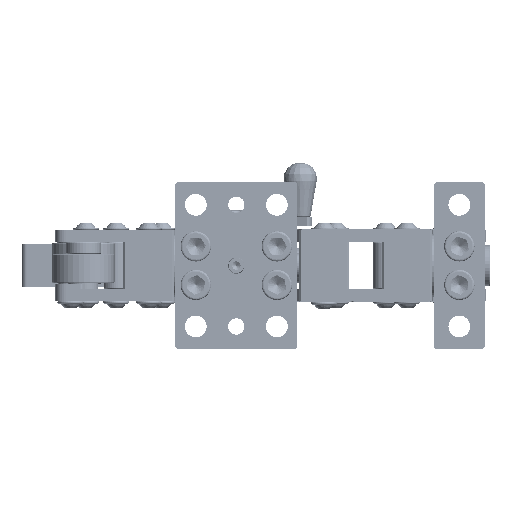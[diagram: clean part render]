
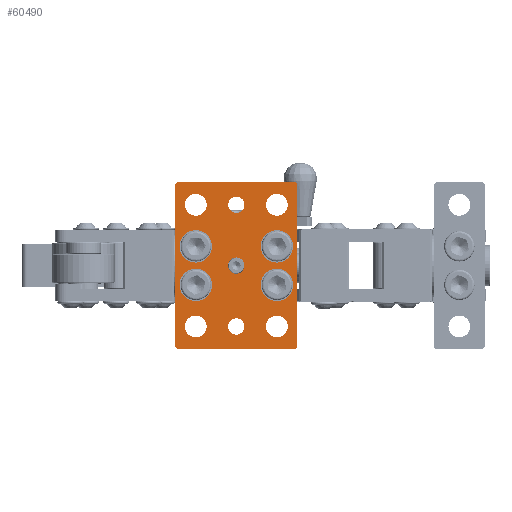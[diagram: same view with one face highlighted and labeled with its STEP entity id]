
A CAD part, left-side view. The second image highlights one B-rep face of the part: STEP entity #60490.
In plain terms, the highlighted planar face has unit normal (-1, 0, 0) as drawn and (0, 0, -1) by its records, which use the part's own axes.
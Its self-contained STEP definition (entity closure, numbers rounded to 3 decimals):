
#5426=FACE_BOUND('',#14126,.T.);
#5427=FACE_BOUND('',#14127,.T.);
#5428=FACE_BOUND('',#14128,.T.);
#5429=FACE_BOUND('',#14129,.T.);
#5430=FACE_BOUND('',#14130,.T.);
#5431=FACE_BOUND('',#14131,.T.);
#5432=FACE_BOUND('',#14132,.T.);
#5433=FACE_BOUND('',#14133,.T.);
#5434=FACE_BOUND('',#14134,.T.);
#5435=FACE_BOUND('',#14135,.T.);
#5436=FACE_BOUND('',#14136,.T.);
#7252=PLANE('',#63686);
#10222=FACE_OUTER_BOUND('',#14125,.T.);
#14125=EDGE_LOOP('',(#54672,#54673,#54674,#54675,#54676,#54677,#54678,#54679));
#14126=EDGE_LOOP('',(#54680));
#14127=EDGE_LOOP('',(#54681));
#14128=EDGE_LOOP('',(#54682));
#14129=EDGE_LOOP('',(#54683));
#14130=EDGE_LOOP('',(#54684));
#14131=EDGE_LOOP('',(#54685));
#14132=EDGE_LOOP('',(#54686));
#14133=EDGE_LOOP('',(#54687));
#14134=EDGE_LOOP('',(#54688));
#14135=EDGE_LOOP('',(#54689));
#14136=EDGE_LOOP('',(#54690));
#19753=LINE('',#103030,#25310);
#19760=LINE('',#103042,#25317);
#19766=LINE('',#103054,#25323);
#19768=LINE('',#103058,#25325);
#19770=LINE('',#103064,#25327);
#19772=LINE('',#103068,#25329);
#19777=LINE('',#103076,#25334);
#19780=LINE('',#103127,#25337);
#25310=VECTOR('',#74068,2.828);
#25317=VECTOR('',#74077,161.);
#25323=VECTOR('',#74087,2.828);
#25325=VECTOR('',#74091,116.);
#25327=VECTOR('',#74097,2.828);
#25329=VECTOR('',#74101,161.);
#25334=VECTOR('',#74108,2.828);
#25337=VECTOR('',#74175,116.);
#26576=CIRCLE('',#63612,8.05);
#26579=CIRCLE('',#63616,8.05);
#26580=CIRCLE('',#63618,8.05);
#26583=CIRCLE('',#63624,10.75);
#26587=CIRCLE('',#63631,10.75);
#26591=CIRCLE('',#63638,10.75);
#26594=CIRCLE('',#63644,10.75);
#26601=CIRCLE('',#63665,16.);
#26604=CIRCLE('',#63671,16.);
#26607=CIRCLE('',#63677,16.);
#26610=CIRCLE('',#63683,16.);
#31438=VERTEX_POINT('',#102971);
#31441=VERTEX_POINT('',#102978);
#31442=VERTEX_POINT('',#102981);
#31445=VERTEX_POINT('',#102990);
#31449=VERTEX_POINT('',#103001);
#31453=VERTEX_POINT('',#103012);
#31456=VERTEX_POINT('',#103021);
#31459=VERTEX_POINT('',#103027);
#31460=VERTEX_POINT('',#103029);
#31464=VERTEX_POINT('',#103040);
#31468=VERTEX_POINT('',#103052);
#31469=VERTEX_POINT('',#103056);
#31470=VERTEX_POINT('',#103061);
#31471=VERTEX_POINT('',#103063);
#31472=VERTEX_POINT('',#103067);
#31481=VERTEX_POINT('',#103096);
#31484=VERTEX_POINT('',#103105);
#31487=VERTEX_POINT('',#103114);
#31490=VERTEX_POINT('',#103123);
#39343=EDGE_CURVE('',#31438,#31438,#26576,.T.);
#39346=EDGE_CURVE('',#31441,#31441,#26579,.T.);
#39347=EDGE_CURVE('',#31442,#31442,#26580,.T.);
#39350=EDGE_CURVE('',#31445,#31445,#26583,.T.);
#39354=EDGE_CURVE('',#31449,#31449,#26587,.T.);
#39358=EDGE_CURVE('',#31453,#31453,#26591,.T.);
#39361=EDGE_CURVE('',#31456,#31456,#26594,.T.);
#39364=EDGE_CURVE('',#31459,#31460,#19753,.T.);
#39371=EDGE_CURVE('',#31459,#31464,#19760,.T.);
#39377=EDGE_CURVE('',#31468,#31464,#19766,.T.);
#39379=EDGE_CURVE('',#31468,#31469,#19768,.T.);
#39381=EDGE_CURVE('',#31470,#31471,#19770,.T.);
#39383=EDGE_CURVE('',#31472,#31471,#19772,.T.);
#39388=EDGE_CURVE('',#31472,#31469,#19777,.T.);
#39397=EDGE_CURVE('',#31481,#31481,#26601,.T.);
#39400=EDGE_CURVE('',#31484,#31484,#26604,.T.);
#39403=EDGE_CURVE('',#31487,#31487,#26607,.T.);
#39406=EDGE_CURVE('',#31490,#31490,#26610,.T.);
#39407=EDGE_CURVE('',#31470,#31460,#19780,.T.);
#54672=ORIENTED_EDGE('',*,*,#39364,.F.);
#54673=ORIENTED_EDGE('',*,*,#39371,.T.);
#54674=ORIENTED_EDGE('',*,*,#39377,.F.);
#54675=ORIENTED_EDGE('',*,*,#39379,.T.);
#54676=ORIENTED_EDGE('',*,*,#39388,.F.);
#54677=ORIENTED_EDGE('',*,*,#39383,.T.);
#54678=ORIENTED_EDGE('',*,*,#39381,.F.);
#54679=ORIENTED_EDGE('',*,*,#39407,.T.);
#54680=ORIENTED_EDGE('',*,*,#39343,.T.);
#54681=ORIENTED_EDGE('',*,*,#39346,.T.);
#54682=ORIENTED_EDGE('',*,*,#39347,.T.);
#54683=ORIENTED_EDGE('',*,*,#39350,.T.);
#54684=ORIENTED_EDGE('',*,*,#39354,.T.);
#54685=ORIENTED_EDGE('',*,*,#39358,.T.);
#54686=ORIENTED_EDGE('',*,*,#39361,.T.);
#54687=ORIENTED_EDGE('',*,*,#39397,.T.);
#54688=ORIENTED_EDGE('',*,*,#39400,.T.);
#54689=ORIENTED_EDGE('',*,*,#39403,.T.);
#54690=ORIENTED_EDGE('',*,*,#39406,.T.);
#60490=ADVANCED_FACE('',(#10222,#5426,#5427,#5428,#5429,#5430,#5431,#5432,
#5433,#5434,#5435,#5436),#7252,.F.);
#63612=AXIS2_PLACEMENT_3D('',#102972,#73998,#73999);
#63616=AXIS2_PLACEMENT_3D('',#102979,#74006,#74007);
#63618=AXIS2_PLACEMENT_3D('',#102982,#74010,#74011);
#63624=AXIS2_PLACEMENT_3D('',#102991,#74022,#74023);
#63631=AXIS2_PLACEMENT_3D('',#103002,#74036,#74037);
#63638=AXIS2_PLACEMENT_3D('',#103013,#74050,#74051);
#63644=AXIS2_PLACEMENT_3D('',#103022,#74062,#74063);
#63665=AXIS2_PLACEMENT_3D('',#103097,#74133,#74134);
#63671=AXIS2_PLACEMENT_3D('',#103106,#74145,#74146);
#63677=AXIS2_PLACEMENT_3D('',#103115,#74157,#74158);
#63683=AXIS2_PLACEMENT_3D('',#103124,#74169,#74170);
#63686=AXIS2_PLACEMENT_3D('',#103128,#74176,#74177);
#73998=DIRECTION('center_axis',(0.,0.,1.));
#73999=DIRECTION('ref_axis',(1.,0.,0.));
#74006=DIRECTION('center_axis',(0.,0.,1.));
#74007=DIRECTION('ref_axis',(1.,0.,0.));
#74010=DIRECTION('center_axis',(0.,0.,1.));
#74011=DIRECTION('ref_axis',(1.,0.,0.));
#74022=DIRECTION('center_axis',(0.,0.,1.));
#74023=DIRECTION('ref_axis',(1.,0.,0.));
#74036=DIRECTION('center_axis',(0.,0.,1.));
#74037=DIRECTION('ref_axis',(1.,0.,0.));
#74050=DIRECTION('center_axis',(0.,0.,1.));
#74051=DIRECTION('ref_axis',(1.,0.,0.));
#74062=DIRECTION('center_axis',(0.,0.,1.));
#74063=DIRECTION('ref_axis',(1.,0.,0.));
#74068=DIRECTION('',(-0.707,-0.707,0.));
#74077=DIRECTION('',(1.,0.,0.));
#74087=DIRECTION('',(-0.707,0.707,0.));
#74091=DIRECTION('',(0.,-1.,0.));
#74097=DIRECTION('',(0.707,-0.707,0.));
#74101=DIRECTION('',(-1.,0.,0.));
#74108=DIRECTION('',(0.707,0.707,0.));
#74133=DIRECTION('center_axis',(0.,0.,1.));
#74134=DIRECTION('ref_axis',(-1.,0.,0.));
#74145=DIRECTION('center_axis',(0.,0.,1.));
#74146=DIRECTION('ref_axis',(-1.,0.,0.));
#74157=DIRECTION('center_axis',(0.,0.,1.));
#74158=DIRECTION('ref_axis',(-1.,0.,0.));
#74169=DIRECTION('center_axis',(0.,0.,1.));
#74170=DIRECTION('ref_axis',(-1.,0.,0.));
#74175=DIRECTION('',(0.,1.,0.));
#74176=DIRECTION('center_axis',(0.,0.,1.));
#74177=DIRECTION('ref_axis',(1.,0.,0.));
#102971=CARTESIAN_POINT('',(-8.05,0.,0.));
#102972=CARTESIAN_POINT('Origin',(0.,0.,0.));
#102978=CARTESIAN_POINT('',(-51.95,0.,0.));
#102979=CARTESIAN_POINT('Origin',(-60.,0.,0.));
#102981=CARTESIAN_POINT('',(68.05,0.,0.));
#102982=CARTESIAN_POINT('Origin',(60.,0.,0.));
#102990=CARTESIAN_POINT('',(70.75,-40.,0.));
#102991=CARTESIAN_POINT('Origin',(60.,-40.,0.));
#103001=CARTESIAN_POINT('',(-49.25,40.,0.));
#103002=CARTESIAN_POINT('Origin',(-60.,40.,0.));
#103012=CARTESIAN_POINT('',(-49.25,-40.,0.));
#103013=CARTESIAN_POINT('Origin',(-60.,-40.,0.));
#103021=CARTESIAN_POINT('',(70.75,40.,0.));
#103022=CARTESIAN_POINT('Origin',(60.,40.,0.));
#103027=CARTESIAN_POINT('',(-80.5,60.,0.));
#103029=CARTESIAN_POINT('',(-82.5,58.,0.));
#103030=CARTESIAN_POINT('',(-75.875,64.625,0.));
#103040=CARTESIAN_POINT('',(80.5,60.,0.));
#103042=CARTESIAN_POINT('',(-82.5,60.,0.));
#103052=CARTESIAN_POINT('',(82.5,58.,0.));
#103054=CARTESIAN_POINT('',(75.875,64.625,0.));
#103056=CARTESIAN_POINT('',(82.5,-58.,0.));
#103058=CARTESIAN_POINT('',(82.5,60.,0.));
#103061=CARTESIAN_POINT('',(-82.5,-58.,0.));
#103063=CARTESIAN_POINT('',(-80.5,-60.,0.));
#103064=CARTESIAN_POINT('',(-75.875,-64.625,0.));
#103067=CARTESIAN_POINT('',(80.5,-60.,0.));
#103068=CARTESIAN_POINT('',(82.5,-60.,0.));
#103076=CARTESIAN_POINT('',(75.875,-64.625,0.));
#103096=CARTESIAN_POINT('',(-35.,-40.,0.));
#103097=CARTESIAN_POINT('Origin',(-19.,-40.,0.));
#103105=CARTESIAN_POINT('',(3.,40.,0.));
#103106=CARTESIAN_POINT('Origin',(19.,40.,0.));
#103114=CARTESIAN_POINT('',(3.,-40.,0.));
#103115=CARTESIAN_POINT('Origin',(19.,-40.,0.));
#103123=CARTESIAN_POINT('',(-35.,40.,0.));
#103124=CARTESIAN_POINT('Origin',(-19.,40.,0.));
#103127=CARTESIAN_POINT('',(-82.5,-60.,0.));
#103128=CARTESIAN_POINT('Origin',(0.,0.,0.));
